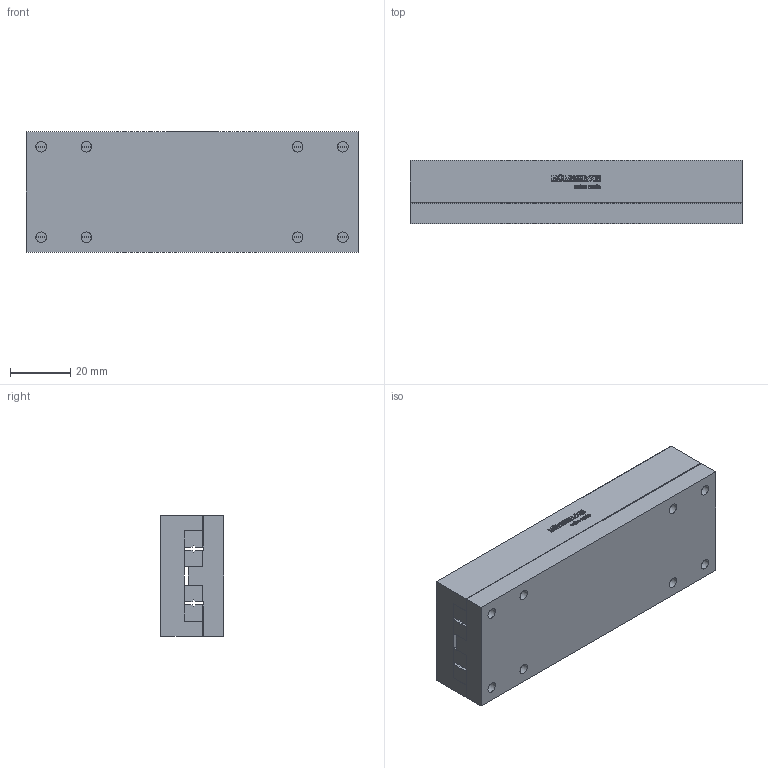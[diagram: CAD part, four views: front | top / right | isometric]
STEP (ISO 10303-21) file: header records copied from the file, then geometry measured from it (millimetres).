
FILE_DESCRIPTION(/* description */ ('STEP AP214'),/* implementation_level */ '2;1');
FILE_NAME(/* name */ 'NK 2-110-B(0)',/* time_stamp */ '2025-04-22T17:48:07+02:00',/* author */ ('License CC BY-ND 4.0'),/* organization */ ('CADENAS'),/* preprocessor_version */ 'ST-DEVELOPER v19.3',/* originating_system */ 'PARTsolutions',/* authorisation */ ' ');
FILE_SCHEMA (('AUTOMOTIVE_DESIGN {1 0 10303 214 3 1 1}'));
Length unit declared in the file: millimetre
Products named in the file (3): NK 2-110-B(0); NK 2-110-B_1; NK 2-110-B_2
Assembly tree (2 placements, depth 2):
  NK 2-110-B(0)
    NK 2-110-B_1
    NK 2-110-B_2
Bounding box: 110 x 21 x 40 mm (x, y, z)
Volume: 88036 mm3; surface area: 33054.2 mm2
Topology: 2 solids, 2 shells, 609 faces, 1678 edges, 1108 vertices
Faces by surface type: cylinder 320, plane 265, cone 24
Full cylindrical faces by diameter (mm): 2.459 x12, 3.5 x8, 6 x8
Entity records: 19475 total; most frequent: DIRECTION 3514, CARTESIAN_POINT 3346, ORIENTED_EDGE 3252, EDGE_CURVE 1626, AXIS2_PLACEMENT_3D 1276, VERTEX_POINT 1108, LINE 962, VECTOR 962
